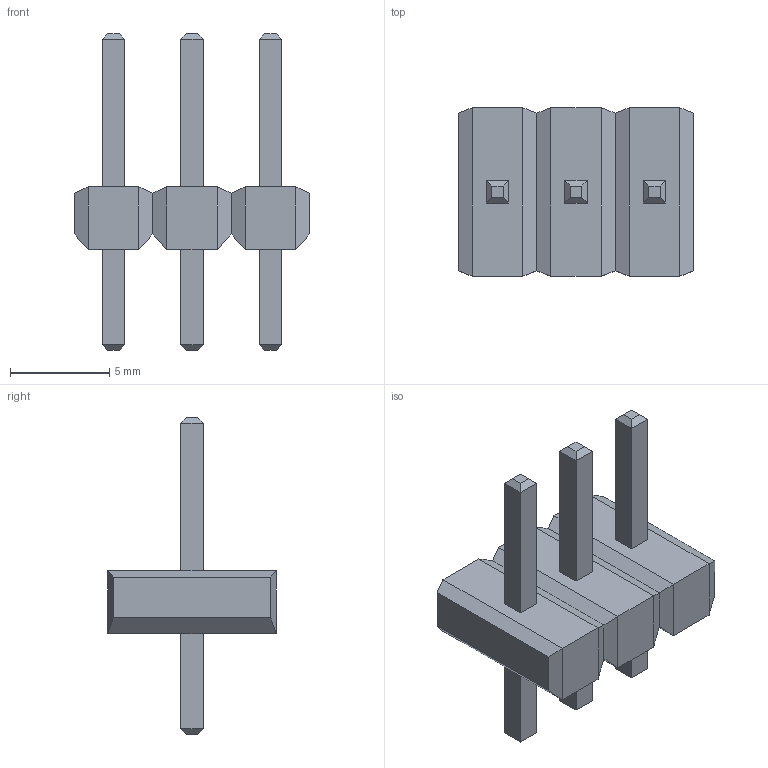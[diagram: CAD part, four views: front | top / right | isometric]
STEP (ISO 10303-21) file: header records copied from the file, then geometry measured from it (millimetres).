
FILE_DESCRIPTION(('STEP AP214'),'1');
FILE_NAME('CONN3X1_B3P-VH_JST','2026-03-29T09:52:54',(''),(''),'','','');
FILE_SCHEMA(('AUTOMOTIVE_DESIGN'));
Length unit declared in the file: millimetre
Products named in the file (1): product
Bounding box: 11.88 x 8.51 x 15.98 mm (x, y, z)
Volume: 347.3 mm3; surface area: 512 mm2
Topology: 7 solids, 7 shells, 98 faces, 196 edges, 112 vertices
Faces by surface type: plane 98
Entity records: 2470 total; most frequent: DIRECTION 394, ORIENTED_EDGE 392, CARTESIAN_POINT 211, EDGE_CURVE 196, LINE 196, VECTOR 196, VERTEX_POINT 112, AXIS2_PLACEMENT_3D 99
